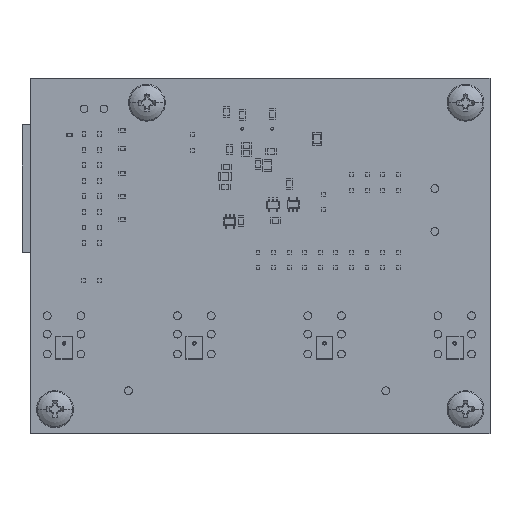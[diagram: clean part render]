
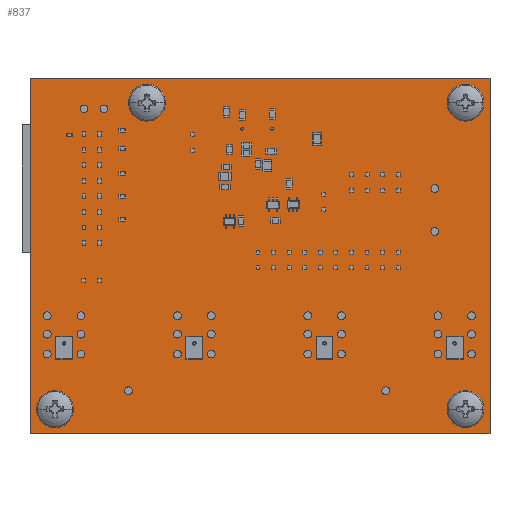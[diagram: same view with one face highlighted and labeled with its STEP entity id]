
A CAD part, top view. The second image highlights one B-rep face of the part: STEP entity #837.
In plain terms, the highlighted planar face has unit normal (0, 0, 1).
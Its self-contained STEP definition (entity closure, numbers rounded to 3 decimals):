
#523 = VERTEX_POINT('',#524);
#524 = CARTESIAN_POINT('',(0.,0.,1.585));
#531 = PLANE('',#532);
#532 = AXIS2_PLACEMENT_3D('',#533,#534,#535);
#533 = CARTESIAN_POINT('',(0.,0.,0.));
#534 = DIRECTION('',(0.,1.,0.));
#535 = DIRECTION('',(1.,0.,0.));
#543 = PLANE('',#544);
#544 = AXIS2_PLACEMENT_3D('',#545,#546,#547);
#545 = CARTESIAN_POINT('',(0.,58.,0.));
#546 = DIRECTION('',(1.,0.,0.));
#547 = DIRECTION('',(0.,-1.,0.));
#555 = EDGE_CURVE('',#523,#556,#558,.T.);
#556 = VERTEX_POINT('',#557);
#557 = CARTESIAN_POINT('',(75.,0.,1.585));
#558 = SURFACE_CURVE('',#559,(#563,#570),.PCURVE_S1.);
#559 = LINE('',#560,#561);
#560 = CARTESIAN_POINT('',(0.,0.,1.585));
#561 = VECTOR('',#562,1.);
#562 = DIRECTION('',(1.,0.,0.));
#563 = PCURVE('',#531,#564);
#564 = DEFINITIONAL_REPRESENTATION('',(#565),#569);
#565 = LINE('',#566,#567);
#566 = CARTESIAN_POINT('',(0.,-1.585));
#567 = VECTOR('',#568,1.);
#568 = DIRECTION('',(1.,0.));
#569 = ( GEOMETRIC_REPRESENTATION_CONTEXT(2) 
PARAMETRIC_REPRESENTATION_CONTEXT() REPRESENTATION_CONTEXT('2D SPACE',''
  ) );
#570 = PCURVE('',#571,#576);
#571 = PLANE('',#572);
#572 = AXIS2_PLACEMENT_3D('',#573,#574,#575);
#573 = CARTESIAN_POINT('',(0.,0.,1.585));
#574 = DIRECTION('',(0.,0.,-1.));
#575 = DIRECTION('',(-1.,0.,0.));
#576 = DEFINITIONAL_REPRESENTATION('',(#577),#581);
#577 = LINE('',#578,#579);
#578 = CARTESIAN_POINT('',(0.,0.));
#579 = VECTOR('',#580,1.);
#580 = DIRECTION('',(-1.,0.));
#581 = ( GEOMETRIC_REPRESENTATION_CONTEXT(2) 
PARAMETRIC_REPRESENTATION_CONTEXT() REPRESENTATION_CONTEXT('2D SPACE',''
  ) );
#599 = PLANE('',#600);
#600 = AXIS2_PLACEMENT_3D('',#601,#602,#603);
#601 = CARTESIAN_POINT('',(75.,0.,0.));
#602 = DIRECTION('',(-1.,0.,0.));
#603 = DIRECTION('',(0.,1.,0.));
#641 = EDGE_CURVE('',#556,#642,#644,.T.);
#642 = VERTEX_POINT('',#643);
#643 = CARTESIAN_POINT('',(75.,58.,1.585));
#644 = SURFACE_CURVE('',#645,(#649,#656),.PCURVE_S1.);
#645 = LINE('',#646,#647);
#646 = CARTESIAN_POINT('',(75.,0.,1.585));
#647 = VECTOR('',#648,1.);
#648 = DIRECTION('',(0.,1.,0.));
#649 = PCURVE('',#599,#650);
#650 = DEFINITIONAL_REPRESENTATION('',(#651),#655);
#651 = LINE('',#652,#653);
#652 = CARTESIAN_POINT('',(0.,-1.585));
#653 = VECTOR('',#654,1.);
#654 = DIRECTION('',(1.,0.));
#655 = ( GEOMETRIC_REPRESENTATION_CONTEXT(2) 
PARAMETRIC_REPRESENTATION_CONTEXT() REPRESENTATION_CONTEXT('2D SPACE',''
  ) );
#656 = PCURVE('',#571,#657);
#657 = DEFINITIONAL_REPRESENTATION('',(#658),#662);
#658 = LINE('',#659,#660);
#659 = CARTESIAN_POINT('',(-75.,0.));
#660 = VECTOR('',#661,1.);
#661 = DIRECTION('',(0.,1.));
#662 = ( GEOMETRIC_REPRESENTATION_CONTEXT(2) 
PARAMETRIC_REPRESENTATION_CONTEXT() REPRESENTATION_CONTEXT('2D SPACE',''
  ) );
#680 = PLANE('',#681);
#681 = AXIS2_PLACEMENT_3D('',#682,#683,#684);
#682 = CARTESIAN_POINT('',(75.,58.,0.));
#683 = DIRECTION('',(0.,-1.,0.));
#684 = DIRECTION('',(-1.,0.,0.));
#717 = EDGE_CURVE('',#642,#718,#720,.T.);
#718 = VERTEX_POINT('',#719);
#719 = CARTESIAN_POINT('',(0.,58.,1.585));
#720 = SURFACE_CURVE('',#721,(#725,#732),.PCURVE_S1.);
#721 = LINE('',#722,#723);
#722 = CARTESIAN_POINT('',(75.,58.,1.585));
#723 = VECTOR('',#724,1.);
#724 = DIRECTION('',(-1.,0.,0.));
#725 = PCURVE('',#680,#726);
#726 = DEFINITIONAL_REPRESENTATION('',(#727),#731);
#727 = LINE('',#728,#729);
#728 = CARTESIAN_POINT('',(0.,-1.585));
#729 = VECTOR('',#730,1.);
#730 = DIRECTION('',(1.,0.));
#731 = ( GEOMETRIC_REPRESENTATION_CONTEXT(2) 
PARAMETRIC_REPRESENTATION_CONTEXT() REPRESENTATION_CONTEXT('2D SPACE',''
  ) );
#732 = PCURVE('',#571,#733);
#733 = DEFINITIONAL_REPRESENTATION('',(#734),#738);
#734 = LINE('',#735,#736);
#735 = CARTESIAN_POINT('',(-75.,58.));
#736 = VECTOR('',#737,1.);
#737 = DIRECTION('',(1.,0.));
#738 = ( GEOMETRIC_REPRESENTATION_CONTEXT(2) 
PARAMETRIC_REPRESENTATION_CONTEXT() REPRESENTATION_CONTEXT('2D SPACE',''
  ) );
#788 = EDGE_CURVE('',#718,#523,#789,.T.);
#789 = SURFACE_CURVE('',#790,(#794,#801),.PCURVE_S1.);
#790 = LINE('',#791,#792);
#791 = CARTESIAN_POINT('',(0.,58.,1.585));
#792 = VECTOR('',#793,1.);
#793 = DIRECTION('',(0.,-1.,0.));
#794 = PCURVE('',#543,#795);
#795 = DEFINITIONAL_REPRESENTATION('',(#796),#800);
#796 = LINE('',#797,#798);
#797 = CARTESIAN_POINT('',(0.,-1.585));
#798 = VECTOR('',#799,1.);
#799 = DIRECTION('',(1.,0.));
#800 = ( GEOMETRIC_REPRESENTATION_CONTEXT(2) 
PARAMETRIC_REPRESENTATION_CONTEXT() REPRESENTATION_CONTEXT('2D SPACE',''
  ) );
#801 = PCURVE('',#571,#802);
#802 = DEFINITIONAL_REPRESENTATION('',(#803),#807);
#803 = LINE('',#804,#805);
#804 = CARTESIAN_POINT('',(0.,58.));
#805 = VECTOR('',#806,1.);
#806 = DIRECTION('',(0.,-1.));
#807 = ( GEOMETRIC_REPRESENTATION_CONTEXT(2) 
PARAMETRIC_REPRESENTATION_CONTEXT() REPRESENTATION_CONTEXT('2D SPACE',''
  ) );
#837 = ADVANCED_FACE('',(#838),#571,.F.);
#838 = FACE_BOUND('',#839,.T.);
#839 = EDGE_LOOP('',(#840,#841,#842,#843));
#840 = ORIENTED_EDGE('',*,*,#555,.T.);
#841 = ORIENTED_EDGE('',*,*,#641,.T.);
#842 = ORIENTED_EDGE('',*,*,#717,.T.);
#843 = ORIENTED_EDGE('',*,*,#788,.T.);
